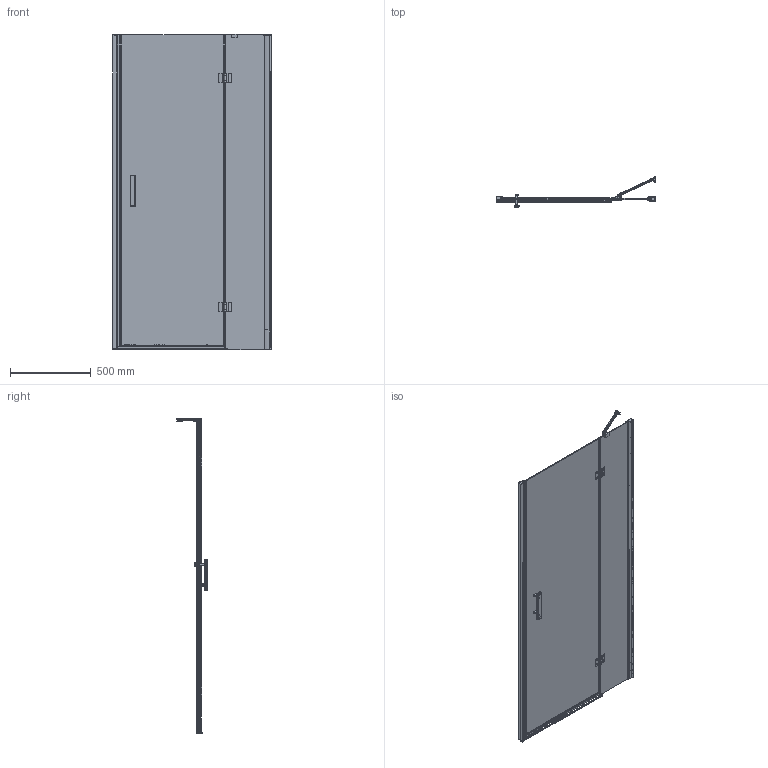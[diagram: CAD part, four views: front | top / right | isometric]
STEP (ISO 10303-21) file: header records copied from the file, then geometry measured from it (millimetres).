
FILE_DESCRIPTION(/* description */ (''),/* implementation_level */ '2;1');
FILE_NAME(/* name */ 'D:\Omnires\Export_Omnires\rys_step\5901867773012_stp.stp',/* time_stamp */ '2020-07-27T14:13:16+02:00',/* author */ (''),/* organization */ (''),/* preprocessor_version */ 'ST-DEVELOPER v18.1',/* originating_system */ 'Autodesk Inventor 2020',/* authorisation */ '');
FILE_SCHEMA (('AUTOMOTIVE_DESIGN { 1 0 10303 214 3 1 1 }'));
Products named in the file (1): 5901867773012_igs
Bounding box: 980.07 x 187.23 x 1957.49 mm (x, y, z)
Surface area: 5254765.1 mm2 (no closed solid volume)
Topology: 0 solids, 2626 shells, 2715 faces, 12588 edges, 12454 vertices
Faces by surface type: plane 1129, cylinder 868, bspline 533, torus 101, cone 74, sphere 10
Full cylindrical faces by diameter (mm): 14.599 x2
Entity records: 198293 total; most frequent: CARTESIAN_POINT 97750, DIRECTION 18600, ORIENTED_EDGE 12659, EDGE_CURVE 12545, VERTEX_POINT 12450, LINE 7562, VECTOR 7562, AXIS2_PLACEMENT_3D 5519
